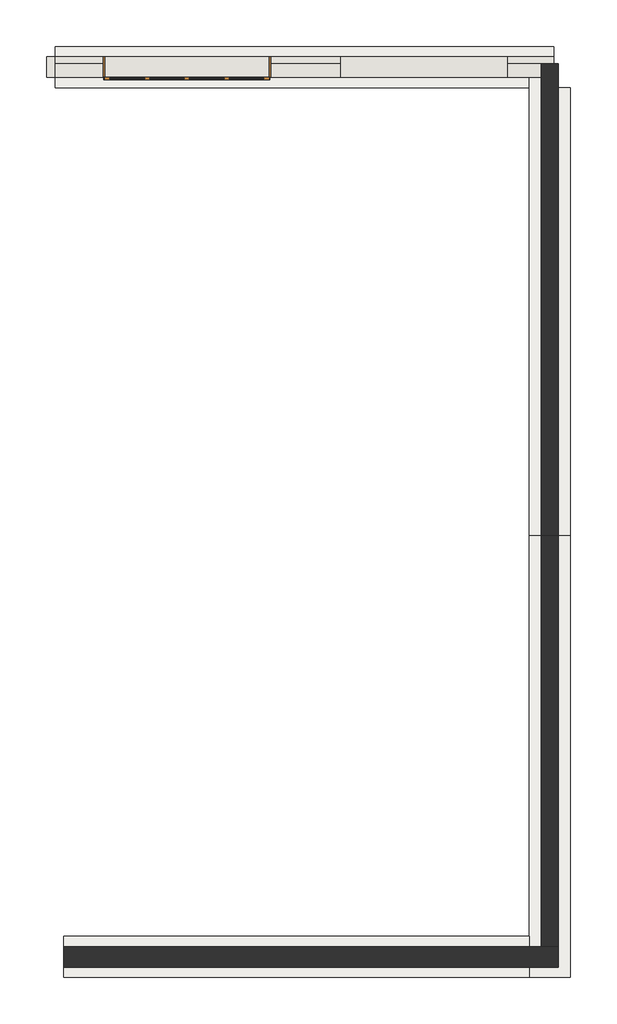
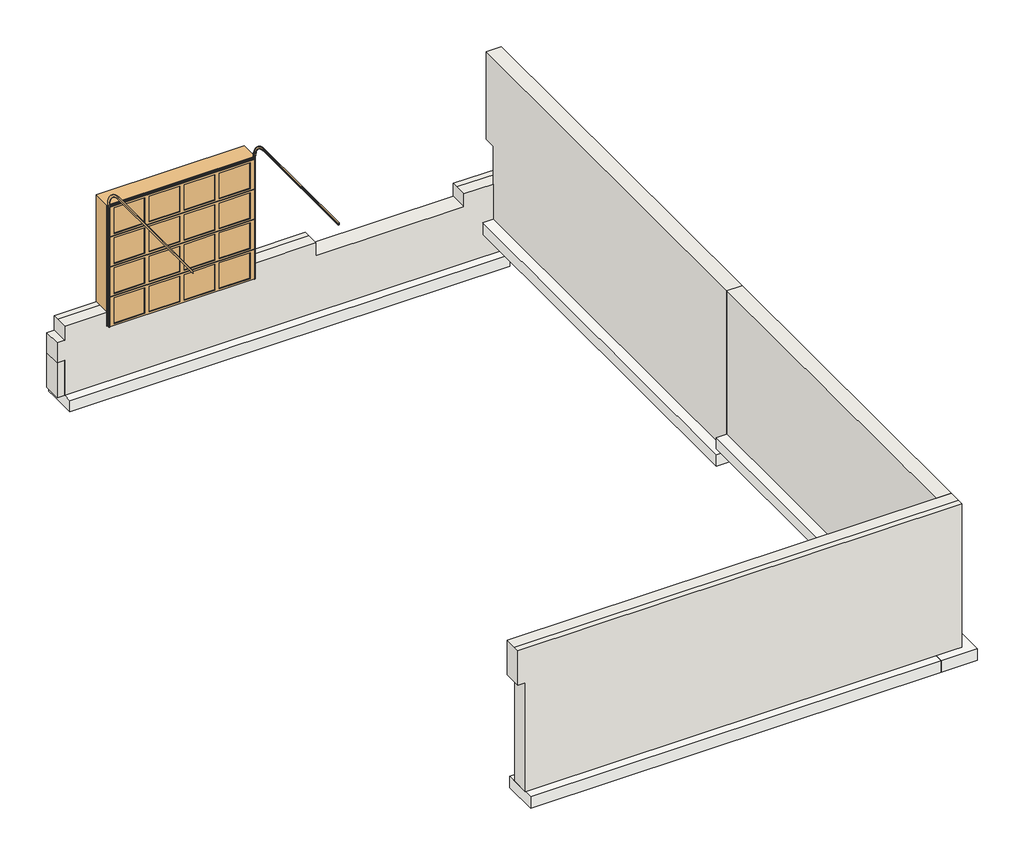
# One storey: 5 footings, 5 walls, 2 doors.
"""IFC4 building model written with IfcOpenShell, lengths in millimetres."""

from ifc_helpers import new_model, si_unit, frame, origin, place, context, project, spatial, polyline, outline, extrude, faceted_brep, transform, mapped, element, save
from components import door_7a04b6f2

model = new_model("IFC4")

# Units and contexts
model_context = context("Model", 3, world=origin())
ifc_project = project(units=[si_unit("LENGTHUNIT", "METRE", prefix="MILLI")], contexts=[model_context])

# Site, building, storey
site = spatial("IfcSite", under=ifc_project)
building = spatial("IfcBuilding", under=site)
storey = spatial("IfcBuildingStorey", under=building, Name="C - T.O. Footing", Elevation=-1657.35)

# Doors
placement = place(None, origin())
door_shape = door_7a04b6f2(model_context)
element("IfcDoor", 1, ObjectType="Door-Garage-Embossed_Panel : 96\" x 84\"", at=placement, inside=storey, context=model_context, shape_type="MappedRepresentation", body=[
    mapped(door_shape, transform((5212.2370514, 6009.0460538, -1593.85), x_axis=(1.0, 0.0, 0.0), y_axis=(0.0, 1.0, 0.0), z_axis=(0.0, 0.0, 1.0))),
])
element("IfcDoor", 2, ObjectType="Door-Garage-Embossed_Panel : 96\" x 84\"", at=placement, inside=storey, context=model_context, shape_type="MappedRepresentation", body=[
    mapped(door_shape, transform((5212.2370514, 6009.0460538, -1593.85), x_axis=(1.0, 0.0, 0.0), y_axis=(0.0, 1.0, 0.0), z_axis=(0.0, 0.0, 1.0))),
])

# Footings
element("IfcFooting", 3, ObjectType="Footing - 24\" x 8\"", at=placement, inside=storey, context=model_context, shape_type="Brep", body=[
    faceted_brep([(10657.3620514, 6310.6710538, -2571.75), (10657.3620514, 5701.0710538, -2571.75), (10657.3620514, 5701.0710538, -2774.95), (10657.3620514, 6310.6710538, -2774.95), (3256.4370514, 5701.0710538, -2571.75), (3256.4370514, 5853.4710538, -2571.75), (3256.4370514, 6158.2710538, -2571.75), (3256.4370514, 6310.6710538, -2571.75), (3256.4370514, 6310.6710538, -2774.95), (3256.4370514, 6158.2710538, -2774.95), (3256.4370514, 5853.4710538, -2774.95), (3256.4370514, 5701.0710538, -2774.95), (3561.2370514, 5701.0710538, -2571.75), (3561.2370514, 5701.0710538, -2774.95)], [[[0, 1, 2, 3]], [[4, 5, 6, 7, 8, 9, 10, 11]], [[0, 7, 6, 5, 4, 12, 1]], [[2, 1, 12, 4, 11, 13]], [[3, 2, 13, 11, 10, 9, 8]], [[0, 3, 8, 7]]]),
])
element("IfcFooting", 4, ObjectType="Footing - 24\" x 8\"", at=placement, inside=storey, context=model_context, shape_type="Brep", body=[
    faceted_brep([(10292.2370514, -953.7289462, -1657.35), (10901.8370514, -953.7289462, -1657.35), (10901.8370514, -953.7289462, -1860.55), (10292.2370514, -953.7289462, -1860.55), (10901.8370514, -7506.9289462, -1657.35), (10292.2370514, -6897.3289462, -1657.35), (10292.2370514, -7506.9289462, -1657.35), (10292.2370514, -7506.9289462, -1860.55), (10292.2370514, -6897.3289462, -1860.55), (10901.8370514, -7506.9289462, -1860.55)], [[[0, 1, 2, 3]], [[4, 1, 0, 5, 6]], [[7, 6, 5, 0, 3, 8]], [[9, 7, 8, 3, 2]], [[4, 9, 2, 1]], [[4, 6, 7, 9]]]),
])
element("IfcFooting", 5, ObjectType="Footing - 24\" x 8\"", at=placement, inside=storey, context=model_context, shape_type="SweptSolid", body=[
    extrude(outline(polyline([(3383.4370514, -7506.9289462), (3383.4370514, -6897.3289462), (10292.2370514, -6897.3289462), (10292.2370514, -7506.9289462), (3383.4370514, -7506.9289462)])), frame((0.0, 0.0, -1860.55), z_axis=(0.0, 0.0, 1.0), x_axis=(1.0, 0.0, 0.0)), (0.0, 0.0, 1.0), 203.2),
])
element("IfcFooting", 6, ObjectType="Footing - 24\" x 8\"", at=placement, inside=storey, context=model_context, shape_type="SweptSolid", body=[
    extrude(outline(polyline([(10901.8370514, -953.7289462), (10292.2370514, -953.7289462), (10292.2370514, 5853.4710538), (10597.0370514, 5853.4710538), (10597.0370514, 5701.0710538), (10901.8370514, 5701.0710538), (10901.8370514, -953.7289462)])), frame((0.0, 0.0, -2165.35), z_axis=(0.0, 0.0, 1.0), x_axis=(1.0, 0.0, 0.0)), (0.0, 0.0, 1.0), 203.2),
])
element("IfcFooting", 7, ObjectType="Footing - 24\" x 8\"", at=placement, inside=storey, context=model_context, shape_type="SweptSolid", body=[
    extrude(outline(polyline([(10657.3620514, 6310.6710538), (10657.3620514, 5701.0710538), (3561.2370514, 5701.0710538), (3561.2370514, 6310.6710538), (10657.3620514, 6310.6710538)])), frame((0.0, 0.0, -2774.95), z_axis=(0.0, 0.0, 1.0), x_axis=(1.0, 0.0, 0.0)), (0.0, 0.0, 1.0), 203.2),
])

# Walls
element("IfcWall", 8, ObjectType="Foundation - 10\" Concrete", at=placement, inside=storey, context=model_context, shape_type="SweptSolid", body=[
    extrude(outline(polyline([(10724.0370514, -953.7289462), (10724.0370514, -7049.7289462), (10470.0370514, -7049.7289462), (10470.0370514, -953.7289462), (10724.0370514, -953.7289462)])), frame((0.0, 0.0, -1657.35), z_axis=(0.0, 0.0, 1.0), x_axis=(1.0, 0.0, 0.0)), (0.0, 0.0, 1.0), 2552.7),
])
element("IfcWall", 9, ObjectType="Foundation - 10\" Concrete", at=placement, inside=storey, context=model_context, shape_type="Brep", body=[
    faceted_brep([(10724.0370514, -953.7289462, -1962.15), (10724.0370514, 5853.4710538, -1962.15), (10724.0370514, 5853.4710538, -666.75), (10724.0370514, 6056.6710538, -666.75), (10724.0370514, 6056.6710538, 895.35), (10724.0370514, -953.7289462, 895.35), (10724.0370514, -953.7289462, -1657.35), (10470.0370514, -953.7289462, -1962.15), (10470.0370514, -953.7289462, -1657.35), (10470.0370514, -953.7289462, 895.35), (10470.0370514, 6056.6710538, 895.35), (10470.0370514, 6056.6710538, -666.75), (10470.0370514, 5853.4710538, -666.75), (10470.0370514, 5853.4710538, -730.25), (10470.0370514, 5853.4710538, -1339.85), (10470.0370514, 5853.4710538, -1962.15), (10597.0370514, 5853.4710538, -1962.15)], [[[0, 1, 2, 3, 4, 5, 6]], [[7, 8, 9, 10, 11, 12, 13, 14, 15]], [[1, 0, 7, 15, 16]], [[5, 4, 10, 9]], [[0, 6, 5, 9, 8, 7]], [[11, 3, 2, 12]], [[1, 16, 15, 14, 13, 12, 2]], [[3, 11, 10, 4]]]),
])
element("IfcWall", 10, ObjectType="Foundation - 12\" Concrete", at=placement, inside=storey, context=model_context, shape_type="Brep", body=[
    faceted_brep([(3383.4370514, -7354.5289462, -1657.35), (10724.0370514, -7354.5289462, -1657.35), (10724.0370514, -7354.5289462, -1047.75), (10724.0370514, -7354.5289462, 895.35), (10597.0370514, -7354.5289462, 895.35), (3256.4370514, -7354.5289462, 895.35), (3256.4370514, -7354.5289462, 285.75), (3383.4370514, -7354.5289462, 285.75), (3383.4370514, -7049.7289462, -1657.35), (3383.4370514, -7049.7289462, 285.75), (3256.4370514, -7049.7289462, 285.75), (3256.4370514, -7049.7289462, 895.35), (10470.0370514, -7049.7289462, 895.35), (10597.0370514, -7049.7289462, 895.35), (10724.0370514, -7049.7289462, 895.35), (10724.0370514, -7049.7289462, -1047.75), (10724.0370514, -7049.7289462, -1657.35), (10470.0370514, -7049.7289462, -1657.35), (10724.0370514, -7252.9289462, 895.35), (3256.4370514, -7252.9289462, 895.35)], [[[0, 1, 2, 3, 4, 5, 6, 7]], [[8, 9, 10, 11, 12, 13, 14, 15, 16, 17]], [[1, 0, 8, 17, 16]], [[18, 14, 13, 12, 11, 19]], [[5, 4, 3, 18, 19]], [[1, 16, 15, 14, 18, 3, 2]], [[6, 5, 19, 11, 10]], [[6, 10, 9, 7]], [[0, 7, 9, 8]]]),
])
element("IfcWall", 11, ObjectType="Foundation - 12\" Concrete", at=placement, inside=storey, context=model_context, shape_type="Brep", body=[
    faceted_brep([(10657.3620514, 6158.2710538, -2571.75), (3256.4370514, 6158.2710538, -2571.75), (3256.4370514, 6158.2710538, -1949.45), (3129.4370514, 6158.2710538, -1949.45), (3129.4370514, 6158.2710538, -1593.85), (3256.4370514, 6158.2710538, -1593.85), (3256.4370514, 6158.2710538, -1339.85), (3967.6370514, 6158.2710538, -1339.85), (3967.6370514, 6158.2710538, -1593.85), (6456.8370514, 6158.2710538, -1593.85), (6456.8370514, 6158.2710538, -1339.85), (7485.5370514, 6158.2710538, -1339.85), (7485.5370514, 6158.2710538, -1568.45), (9974.7370514, 6158.2710538, -1568.45), (9974.7370514, 6158.2710538, -1339.85), (10470.0370514, 6158.2710538, -1339.85), (10597.0370514, 6158.2710538, -1339.85), (10657.3620514, 6158.2710538, -1339.85), (3256.4370514, 5853.4710538, -2571.75), (3383.4370514, 5853.4710538, -2571.75), (10657.3620514, 5853.4710538, -2571.75), (10657.3620514, 5853.4710538, -1339.85), (10597.0370514, 5853.4710538, -1339.85), (10470.0370514, 5853.4710538, -1339.85), (9974.7370514, 5853.4710538, -1339.85), (9974.7370514, 5853.4710538, -1568.45), (7485.5370514, 5853.4710538, -1568.45), (7485.5370514, 5853.4710538, -1339.85), (6456.8370514, 5853.4710538, -1339.85), (6456.8370514, 5853.4710538, -1593.85), (3967.6370514, 5853.4710538, -1593.85), (3967.6370514, 5853.4710538, -1339.85), (3383.4370514, 5853.4710538, -1339.85), (3256.4370514, 5853.4710538, -1339.85), (3256.4370514, 5853.4710538, -1593.85), (3129.4370514, 5853.4710538, -1593.85), (3129.4370514, 5853.4710538, -1949.45), (3256.4370514, 5853.4710538, -1949.45), (10657.3620514, 6056.6710538, -1339.85), (9974.7370514, 6056.6710538, -1339.85), (3256.4370514, 6056.6710538, -1339.85), (3967.6370514, 6056.6710538, -1339.85), (7485.5370514, 6056.6710538, -1339.85), (6456.8370514, 6056.6710538, -1339.85)], [[[0, 1, 2, 3, 4, 5, 6, 7, 8, 9, 10, 11, 12, 13, 14, 15, 16, 17]], [[18, 19, 20, 21, 22, 23, 24, 25, 26, 27, 28, 29, 30, 31, 32, 33, 34, 35, 36, 37]], [[1, 0, 20, 19, 18]], [[21, 38, 39, 24, 23, 22]], [[40, 33, 32, 31, 41]], [[27, 42, 43, 28]], [[6, 40, 41, 7]], [[38, 17, 16, 15, 14, 39]], [[42, 11, 10, 43]], [[1, 18, 37, 2]], [[3, 2, 37, 36]], [[13, 25, 24, 39, 14]], [[26, 12, 11, 42, 27]], [[25, 13, 12, 26]], [[9, 29, 28, 43, 10]], [[30, 8, 7, 41, 31]], [[29, 9, 8, 30]], [[20, 0, 17, 38, 21]], [[33, 40, 6, 5, 34]], [[34, 5, 4, 35]], [[3, 36, 35, 4]]]),
])
element("IfcWall", 12, ObjectType="Foundation - 12\" Concrete", at=placement, inside=storey, context=model_context, shape_type="Brep", body=[
    faceted_brep([(10657.3620514, 6158.2710538, -2571.75), (3129.4370514, 6158.2710538, -2571.75), (3129.4370514, 6158.2710538, -1593.85), (3256.4370514, 6158.2710538, -1593.85), (3256.4370514, 6158.2710538, -1339.85), (3967.6370514, 6158.2710538, -1339.85), (3967.6370514, 6158.2710538, -1593.85), (6456.8370514, 6158.2710538, -1593.85), (6456.8370514, 6158.2710538, -1339.85), (7485.5370514, 6158.2710538, -1339.85), (7485.5370514, 6158.2710538, -1568.45), (9974.7370514, 6158.2710538, -1568.45), (9974.7370514, 6158.2710538, -1339.85), (10470.0370514, 6158.2710538, -1339.85), (10597.0370514, 6158.2710538, -1339.85), (10657.3620514, 6158.2710538, -1339.85), (3129.4370514, 5853.4710538, -2571.75), (3383.4370514, 5853.4710538, -2571.75), (10657.3620514, 5853.4710538, -2571.75), (10657.3620514, 5853.4710538, -1339.85), (10597.0370514, 5853.4710538, -1339.85), (10470.0370514, 5853.4710538, -1339.85), (9974.7370514, 5853.4710538, -1339.85), (9974.7370514, 5853.4710538, -1568.45), (7485.5370514, 5853.4710538, -1568.45), (7485.5370514, 5853.4710538, -1339.85), (6456.8370514, 5853.4710538, -1339.85), (6456.8370514, 5853.4710538, -1593.85), (3967.6370514, 5853.4710538, -1593.85), (3967.6370514, 5853.4710538, -1339.85), (3383.4370514, 5853.4710538, -1339.85), (3256.4370514, 5853.4710538, -1339.85), (3256.4370514, 5853.4710538, -1593.85), (3129.4370514, 5853.4710538, -1593.85), (10657.3620514, 6056.6710538, -1339.85), (9974.7370514, 6056.6710538, -1339.85), (3256.4370514, 6056.6710538, -1339.85), (3967.6370514, 6056.6710538, -1339.85), (7485.5370514, 6056.6710538, -1339.85), (6456.8370514, 6056.6710538, -1339.85)], [[[0, 1, 2, 3, 4, 5, 6, 7, 8, 9, 10, 11, 12, 13, 14, 15]], [[16, 17, 18, 19, 20, 21, 22, 23, 24, 25, 26, 27, 28, 29, 30, 31, 32, 33]], [[1, 0, 18, 17, 16]], [[19, 34, 35, 22, 21, 20]], [[36, 31, 30, 29, 37]], [[25, 38, 39, 26]], [[4, 36, 37, 5]], [[34, 15, 14, 13, 12, 35]], [[38, 9, 8, 39]], [[11, 23, 22, 35, 12]], [[24, 10, 9, 38, 25]], [[23, 11, 10, 24]], [[7, 27, 26, 39, 8]], [[28, 6, 5, 37, 29]], [[27, 7, 6, 28]], [[31, 36, 4, 3, 32]], [[32, 3, 2, 33]], [[1, 16, 33, 2]], [[18, 0, 15, 34, 19]]]),
])

save(model, "model.ifc")
